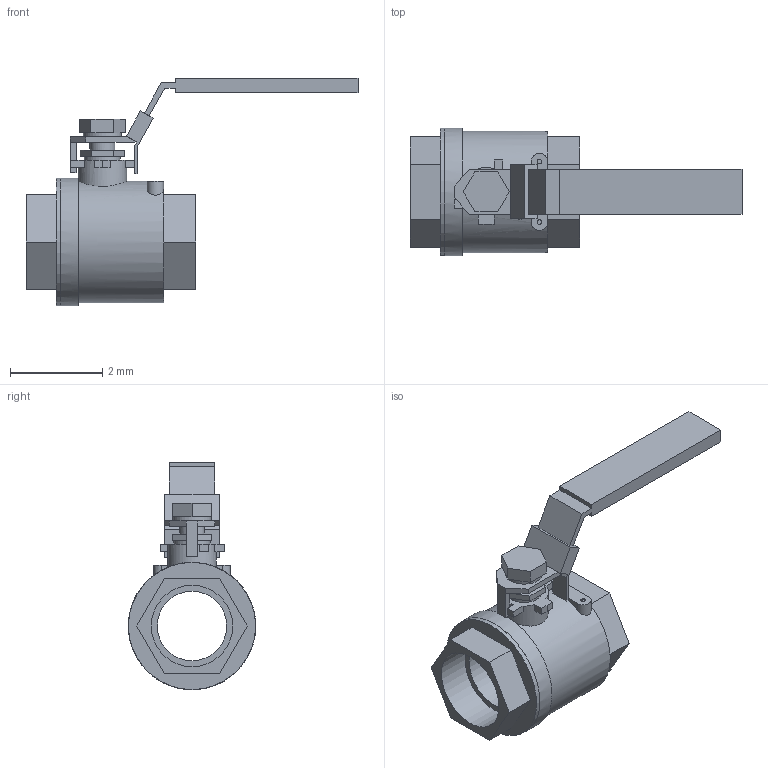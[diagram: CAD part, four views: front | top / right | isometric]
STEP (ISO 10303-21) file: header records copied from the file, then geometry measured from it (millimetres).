
FILE_DESCRIPTION(('Open CASCADE Model'),'2;1');
FILE_NAME('Open CASCADE Shape Model','2022-03-24T11:27:45',('Author'),( 'Open CASCADE'),'Open CASCADE STEP processor 7.3','Open CASCADE 7.3' ,'Unknown');
FILE_SCHEMA(('AUTOMOTIVE_DESIGN { 1 0 10303 214 1 1 1 1 }'));
Length unit declared in the file: millimetre
Products named in the file (1): Open CASCADE STEP translator 7.3 1
Bounding box: 7.18 x 2.75 x 4.92 mm (x, y, z)
Volume: 13 mm3; surface area: 80.2 mm2
Topology: 1 solids, 1 shells, 113 faces, 290 edges, 190 vertices
Faces by surface type: plane 99, cylinder 14
Full cylindrical faces by diameter (mm): 0.1 x2, 0.54 x1, 0.78 x1, 0.825 x1, 1.05 x1, 1.5 x1, 1.76 x2, 2.62 x1, 2.75 x1, 2.754 x1
Entity records: 7556 total; most frequent: CARTESIAN_POINT 1648, DIRECTION 1095, LINE 771, VECTOR 771, ORIENTED_EDGE 580, PCURVE 580, DEFINITIONAL_REPRESENTATION 580, EDGE_CURVE 290
